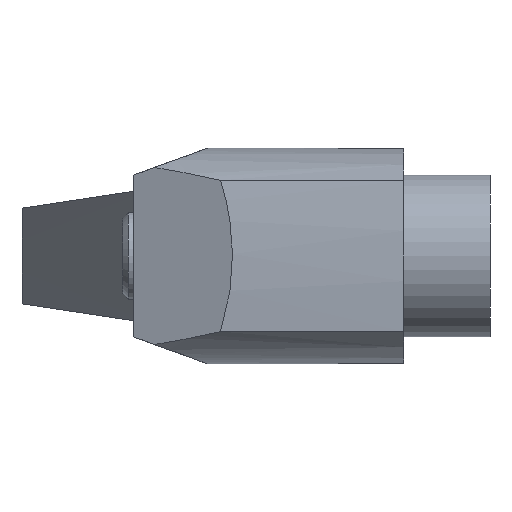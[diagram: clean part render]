
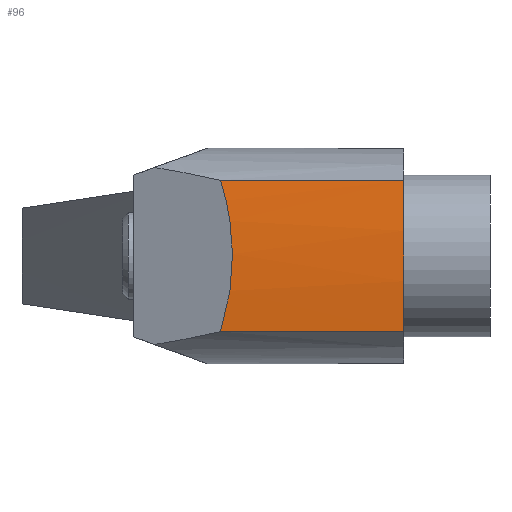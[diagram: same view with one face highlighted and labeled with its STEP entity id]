
A CAD part, left-side view. The second image highlights one B-rep face of the part: STEP entity #96.
In plain terms, the highlighted cylindrical face has radius 60.933 mm (diameter 121.867 mm), a partial arc.
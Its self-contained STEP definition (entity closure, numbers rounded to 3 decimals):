
#96 = ADVANCED_FACE( '', ( #151 ), #152, .T. );
#151 = FACE_OUTER_BOUND( '', #208, .T. );
#152 = CYLINDRICAL_SURFACE( '', #209, 60.933 );
#208 = EDGE_LOOP( '', ( #362, #363, #364, #365 ) );
#209 = AXIS2_PLACEMENT_3D( '', #366, #367, #368 );
#362 = ORIENTED_EDGE( '', *, *, #411, .F. );
#363 = ORIENTED_EDGE( '', *, *, #436, .T. );
#364 = ORIENTED_EDGE( '', *, *, #418, .T. );
#365 = ORIENTED_EDGE( '', *, *, #437, .F. );
#366 = CARTESIAN_POINT( '', ( 50.107, 33., 0. ) );
#367 = DIRECTION( '', ( 0., 1., 0. ) );
#368 = DIRECTION( '', ( 0., 0., -1. ) );
#411 = EDGE_CURVE( '', #481, #472, #483, .T. );
#418 = EDGE_CURVE( '', #490, #492, #494, .T. );
#436 = EDGE_CURVE( '', #481, #490, #522, .T. );
#437 = EDGE_CURVE( '', #472, #492, #523, .T. );
#472 = VERTEX_POINT( '', #573 );
#481 = VERTEX_POINT( '', #585 );
#483 = ELLIPSE( '', #587, 178.157, 60.933 );
#490 = VERTEX_POINT( '', #596 );
#492 = VERTEX_POINT( '', #598 );
#494 = CIRCLE( '', #600, 60.933 );
#522 = LINE( '', #636, #637 );
#523 = LINE( '', #638, #639 );
#573 = CARTESIAN_POINT( '', ( -10.423, 24.962, 7. ) );
#585 = CARTESIAN_POINT( '', ( -10.423, 24.962, -7. ) );
#587 = AXIS2_PLACEMENT_3D( '', #679, #680, #681 );
#596 = CARTESIAN_POINT( '', ( -10.423, 8., -7. ) );
#598 = CARTESIAN_POINT( '', ( -10.423, 8., 7. ) );
#600 = AXIS2_PLACEMENT_3D( '', #696, #697, #698 );
#636 = CARTESIAN_POINT( '', ( -10.423, 33., -7. ) );
#637 = VECTOR( '', #734, 1000. );
#638 = CARTESIAN_POINT( '', ( -10.423, 33., 7. ) );
#639 = VECTOR( '', #735, 1000. );
#679 = CARTESIAN_POINT( '', ( 50.107, 191.267, 0. ) );
#680 = DIRECTION( '', ( -0.94, 0.342, 0. ) );
#681 = DIRECTION( '', ( -0.342, -0.94, 0. ) );
#696 = CARTESIAN_POINT( '', ( 50.107, 8., 0. ) );
#697 = DIRECTION( '', ( 0., 1., 0. ) );
#698 = DIRECTION( '', ( 1., 0., 0. ) );
#734 = DIRECTION( '', ( 0., -1., 0. ) );
#735 = DIRECTION( '', ( 0., -1., 0. ) );
